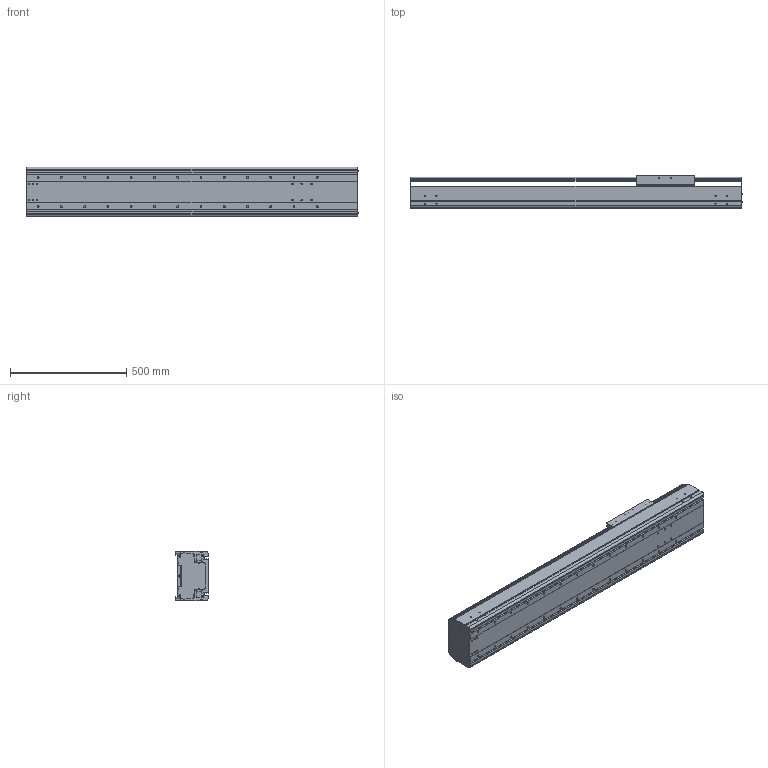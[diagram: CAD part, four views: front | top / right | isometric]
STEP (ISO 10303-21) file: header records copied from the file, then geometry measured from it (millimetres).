
FILE_DESCRIPTION((''),'2;1');
FILE_NAME('BE60J-ST-M_B-90_IGS_PRT','2017-06-18T',(' '),(''),'PRO/ENGINEER BY PARAMETRIC TECHNOLOGY CORPORATION, 2015030','PRO/ENGINEER BY PARAMETRIC TECHNOLOGY CORPORATION, 2015030','');
FILE_SCHEMA(('CONFIG_CONTROL_DESIGN'));
Length unit declared in the file: millimetre
Products named in the file (1): BE60J-ST-M_B-90_IGS_PRT
Bounding box: 1427.4 x 140 x 214 mm (x, y, z)
Volume: 11264668.7 mm3; surface area: 3003245 mm2
Topology: 2 solids, 28 shells, 1097 faces, 2908 edges, 1873 vertices
Faces by surface type: plane 523, cylinder 474, cone 52, torus 24, sphere 24
Entity records: 34375 total; most frequent: CARTESIAN_POINT 6410, DIRECTION 5984, ORIENTED_EDGE 5620, EDGE_CURVE 2858, AXIS2_PLACEMENT_3D 2138, VERTEX_POINT 1872, VECTOR 1708, LINE 1708
